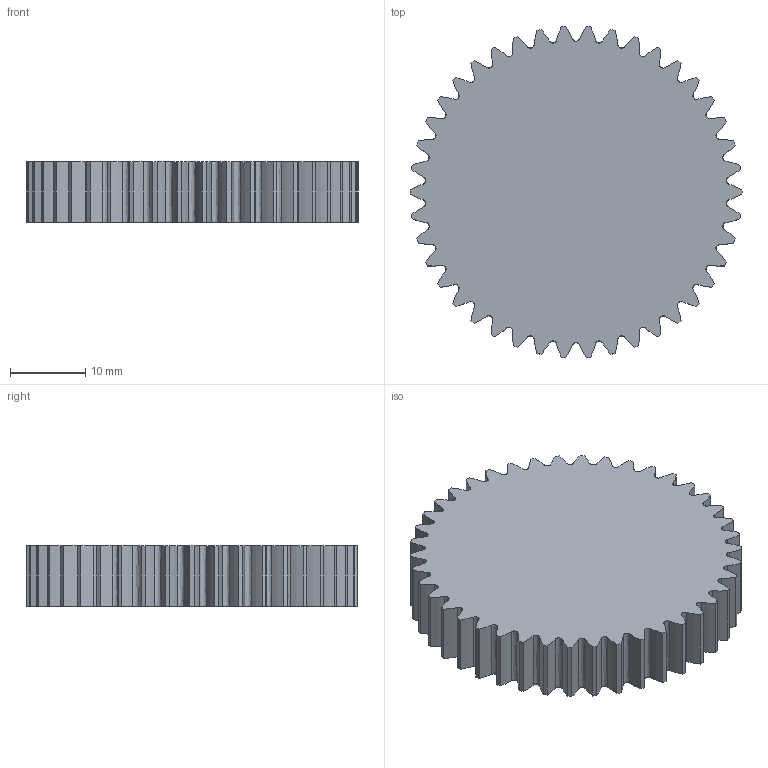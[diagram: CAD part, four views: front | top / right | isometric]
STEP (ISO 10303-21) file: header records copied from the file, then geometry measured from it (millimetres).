
FILE_DESCRIPTION(/* description */ (''),/* implementation_level */ '2;1');
FILE_NAME(/* name */ 'C:/Users/Brandon/Desktop/gears 25deg mod1 fillet.5/42t.step',/* time_stamp */ '2018-01-21T15:58:01-05:00',/* author */ (''),/* organization */ (''),/* preprocessor_version */ 'ST-DEVELOPER v16.13',/* originating_system */ 'Autodesk Translation Framework v6.5.0.72',/* authorisation */ '');
FILE_SCHEMA (('AUTOMOTIVE_DESIGN { 1 0 10303 214 3 1 1 }'));
Length unit declared in the file: millimetre
Products named in the file (4): (Unsaved); Spur Gear (45 teeth); Spur Gear (50 teeth); Spur Gear (42 teeth)
Assembly tree (3 placements, depth 2):
  (Unsaved)
    Spur Gear (45 teeth)
    Spur Gear (50 teeth)
    Spur Gear (42 teeth)
Bounding box: 44 x 43.92 x 8 mm (x, y, z)
Volume: 11081.9 mm3; surface area: 4643.2 mm2
Topology: 1 solids, 1 shells, 170 faces, 504 edges, 336 vertices
Faces by surface type: bspline 126, cylinder 42, plane 2
Entity records: 26935 total; most frequent: CARTESIAN_POINT 23487, ORIENTED_EDGE 1008, EDGE_CURVE 504, DIRECTION 354, VERTEX_POINT 336, FACE_OUTER_BOUND 170, EDGE_LOOP 170, ADVANCED_FACE 170
